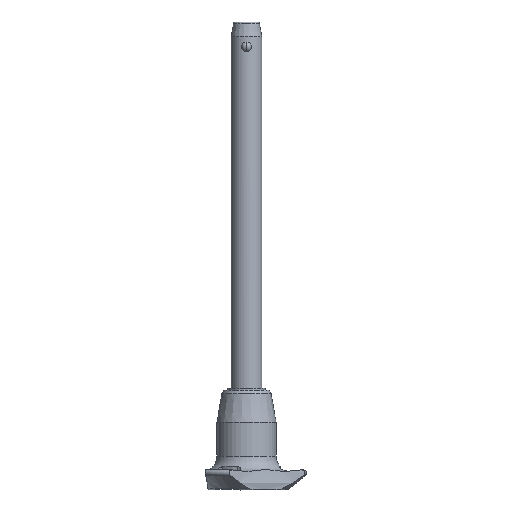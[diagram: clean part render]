
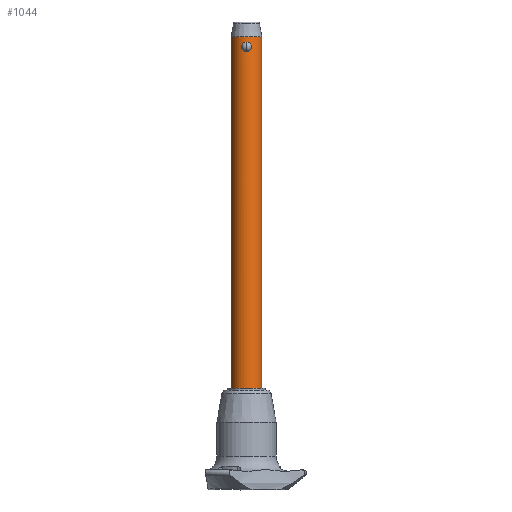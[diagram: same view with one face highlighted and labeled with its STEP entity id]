
A CAD part, front view. The second image highlights one B-rep face of the part: STEP entity #1044.
In plain terms, the highlighted cylindrical face has radius 5 mm (diameter 10 mm), a partial arc.
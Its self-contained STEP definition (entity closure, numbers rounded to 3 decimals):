
#5 = EDGE_CURVE ( 'NONE', #1055, #1495, #1968, .T. ) ;
#49 = DIRECTION ( 'NONE',  ( 0., 0., 1. ) ) ;
#50 = CARTESIAN_POINT ( 'NONE',  ( 5., 0., -110. ) ) ;
#66 = CARTESIAN_POINT ( 'NONE',  ( 0., -5., 0. ) ) ;
#88 = FACE_OUTER_BOUND ( 'NONE', #1989, .T. ) ;
#94 = CARTESIAN_POINT ( 'NONE',  ( -1.383, -4.805, 2.299 ) ) ;
#95 = EDGE_LOOP ( 'NONE', ( #2312, #2437 ) ) ;
#120 = CARTESIAN_POINT ( 'NONE',  ( -1.604, -4.736, 1.724 ) ) ;
#129 = CARTESIAN_POINT ( 'NONE',  ( 0., -5., 0. ) ) ;
#132 = CYLINDRICAL_SURFACE ( 'NONE', #1680, 5. ) ;
#141 = CARTESIAN_POINT ( 'NONE',  ( 1.384, -4.805, 0.735 ) ) ;
#146 = DIRECTION ( 'NONE',  ( 1., 0., 0. ) ) ;
#304 = CARTESIAN_POINT ( 'NONE',  ( 0.7, -4.952, 2.888 ) ) ;
#329 = CARTESIAN_POINT ( 'NONE',  ( 0., -5., 3.033 ) ) ;
#355 = DIRECTION ( 'NONE',  ( 1., 0., 0. ) ) ;
#365 = VERTEX_POINT ( 'NONE', #50 ) ;
#369 = CARTESIAN_POINT ( 'NONE',  ( 0., 0., -110. ) ) ;
#382 = DIRECTION ( 'NONE',  ( 0., 0., -1. ) ) ;
#387 = LINE ( 'NONE', #1247, #1682 ) ;
#502 = CARTESIAN_POINT ( 'NONE',  ( -1.047, -4.89, 2.676 ) ) ;
#508 = CARTESIAN_POINT ( 'NONE',  ( 0.208, -5., 3.033 ) ) ;
#519 = CARTESIAN_POINT ( 'NONE',  ( -1.604, -4.736, 1.416 ) ) ;
#532 = CARTESIAN_POINT ( 'NONE',  ( -1.435, -4.79, 2.209 ) ) ;
#537 = CARTESIAN_POINT ( 'NONE',  ( 1.196, -4.855, 0.493 ) ) ;
#542 = ORIENTED_EDGE ( 'NONE', *, *, #2754, .T. ) ;
#716 = CARTESIAN_POINT ( 'NONE',  ( -0.965, -4.907, 2.738 ) ) ;
#752 = CARTESIAN_POINT ( 'NONE',  ( 1.272, -4.838, 2.47 ) ) ;
#756 = DIRECTION ( 'NONE',  ( 0., 0., 1. ) ) ;
#778 = CARTESIAN_POINT ( 'NONE',  ( 0.966, -4.907, 2.738 ) ) ;
#810 = DIRECTION ( 'NONE',  ( 0., 0., -1. ) ) ;
#813 = ORIENTED_EDGE ( 'NONE', *, *, #1756, .F. ) ;
#844 = CARTESIAN_POINT ( 'NONE',  ( -5., 0., 4.8 ) ) ;
#889 = VERTEX_POINT ( 'NONE', #1803 ) ;
#922 = CARTESIAN_POINT ( 'NONE',  ( 0.699, -4.952, 0.144 ) ) ;
#949 = LINE ( 'NONE', #2675, #1810 ) ;
#964 = CARTESIAN_POINT ( 'NONE',  ( 1.604, -4.736, 1.308 ) ) ;
#980 = CARTESIAN_POINT ( 'NONE',  ( 1.395, -4.802, 2.301 ) ) ;
#1015 = CARTESIAN_POINT ( 'NONE',  ( -0.966, -4.907, 0.296 ) ) ;
#1044 = ADVANCED_FACE ( 'NONE', ( #88, #2680 ), #132, .T. ) ;
#1055 = VERTEX_POINT ( 'NONE', #329 ) ;
#1144 = CARTESIAN_POINT ( 'NONE',  ( 1.265, -4.838, 0.57 ) ) ;
#1157 = CARTESIAN_POINT ( 'NONE',  ( 0., -5., 3.033 ) ) ;
#1166 = ORIENTED_EDGE ( 'NONE', *, *, #1885, .F. ) ;
#1187 = CARTESIAN_POINT ( 'NONE',  ( 1.047, -4.89, 0.356 ) ) ;
#1197 = CARTESIAN_POINT ( 'NONE',  ( -1.551, -4.753, 1.11 ) ) ;
#1215 = CARTESIAN_POINT ( 'NONE',  ( -5., 0., -110. ) ) ;
#1247 = CARTESIAN_POINT ( 'NONE',  ( 5., 0., -110. ) ) ;
#1312 = CARTESIAN_POINT ( 'NONE',  ( 0.412, -4.987, 0.037 ) ) ;
#1362 = CARTESIAN_POINT ( 'NONE',  ( -1.197, -4.855, 2.539 ) ) ;
#1384 = CARTESIAN_POINT ( 'NONE',  ( 1.519, -4.764, 2.021 ) ) ;
#1392 = CARTESIAN_POINT ( 'NONE',  ( -1.272, -4.838, 0.564 ) ) ;
#1403 = CARTESIAN_POINT ( 'NONE',  ( -1.56, -4.751, 1.931 ) ) ;
#1473 = EDGE_CURVE ( 'NONE', #1495, #1055, #1627, .T. ) ;
#1495 = VERTEX_POINT ( 'NONE', #129 ) ;
#1583 = CARTESIAN_POINT ( 'NONE',  ( -1.264, -4.838, 2.464 ) ) ;
#1590 = CARTESIAN_POINT ( 'NONE',  ( 1.434, -4.79, 0.822 ) ) ;
#1606 = CARTESIAN_POINT ( 'NONE',  ( 1.56, -4.751, 1.103 ) ) ;
#1608 = EDGE_CURVE ( 'NONE', #365, #889, #387, .T. ) ;
#1622 = CARTESIAN_POINT ( 'NONE',  ( 0., 0., -110. ) ) ;
#1627 = B_SPLINE_CURVE_WITH_KNOTS ( 'NONE', 3,
 ( #66, #2153, #1312, #922, #1938, #1730, #1187, #537, #1144, #141, #1590, #1606, #964, #2248, #2485, #2221, #1384, #980, #752, #2689, #778, #2470, #304, #1633, #508, #2446 ),
 .UNSPECIFIED., .F., .F.,
 ( 4, 2, 2, 2, 2, 2, 2, 2, 2, 2, 2, 2, 4 ),
 ( 0.005, 0.006, 0.006, 0.006, 0.006, 0.007, 0.007, 0.008, 0.008, 0.009, 0.009, 0.009, 0.01 ),
 .UNSPECIFIED. ) ;
#1633 = CARTESIAN_POINT ( 'NONE',  ( 0.412, -4.987, 2.996 ) ) ;
#1680 = AXIS2_PLACEMENT_3D ( 'NONE', #1622, #756, #146 ) ;
#1682 = VECTOR ( 'NONE', #49, 1000. ) ;
#1684 = CARTESIAN_POINT ( 'NONE',  ( -1.047, -4.89, 0.357 ) ) ;
#1730 = CARTESIAN_POINT ( 'NONE',  ( 0.966, -4.907, 0.296 ) ) ;
#1756 = EDGE_CURVE ( 'NONE', #1866, #2361, #949, .T. ) ;
#1790 = CARTESIAN_POINT ( 'NONE',  ( -1.519, -4.764, 1.013 ) ) ;
#1803 = CARTESIAN_POINT ( 'NONE',  ( 5., 0., 4.8 ) ) ;
#1810 = VECTOR ( 'NONE', #2456, 1000. ) ;
#1817 = AXIS2_PLACEMENT_3D ( 'NONE', #2529, #810, #1886 ) ;
#1866 = VERTEX_POINT ( 'NONE', #1215 ) ;
#1885 = EDGE_CURVE ( 'NONE', #365, #1866, #2089, .T. ) ;
#1886 = DIRECTION ( 'NONE',  ( 1., 0., 0. ) ) ;
#1938 = CARTESIAN_POINT ( 'NONE',  ( 0.792, -4.938, 0.19 ) ) ;
#1968 = B_SPLINE_CURVE_WITH_KNOTS ( 'NONE', 3,
 ( #1157, #2009, #2201, #2454, #2629, #716, #502, #1362, #1583, #94, #532, #1403, #120, #519, #2244, #1197, #1790, #2643, #1392, #1684, #1015, #2537, #2320, #2107, #2293, #2739 ),
 .UNSPECIFIED., .F., .F.,
 ( 4, 2, 2, 2, 2, 2, 2, 2, 2, 2, 2, 2, 4 ),
 ( 0., 0.001, 0.001, 0.001, 0.002, 0.002, 0.002, 0.003, 0.003, 0.004, 0.004, 0.004, 0.005 ),
 .UNSPECIFIED. ) ;
#1989 = EDGE_LOOP ( 'NONE', ( #813, #1166, #2311, #542 ) ) ;
#2009 = CARTESIAN_POINT ( 'NONE',  ( -0.208, -5., 3.033 ) ) ;
#2089 = CIRCLE ( 'NONE', #2299, 5. ) ;
#2107 = CARTESIAN_POINT ( 'NONE',  ( -0.412, -4.987, 0.037 ) ) ;
#2153 = CARTESIAN_POINT ( 'NONE',  ( 0.205, -5., 0. ) ) ;
#2201 = CARTESIAN_POINT ( 'NONE',  ( -0.412, -4.987, 2.997 ) ) ;
#2221 = CARTESIAN_POINT ( 'NONE',  ( 1.551, -4.753, 1.922 ) ) ;
#2244 = CARTESIAN_POINT ( 'NONE',  ( -1.594, -4.739, 1.312 ) ) ;
#2248 = CARTESIAN_POINT ( 'NONE',  ( 1.604, -4.736, 1.619 ) ) ;
#2293 = CARTESIAN_POINT ( 'NONE',  ( -0.205, -5., 0. ) ) ;
#2299 = AXIS2_PLACEMENT_3D ( 'NONE', #369, #382, #355 ) ;
#2311 = ORIENTED_EDGE ( 'NONE', *, *, #1608, .T. ) ;
#2312 = ORIENTED_EDGE ( 'NONE', *, *, #5, .F. ) ;
#2320 = CARTESIAN_POINT ( 'NONE',  ( -0.699, -4.952, 0.145 ) ) ;
#2361 = VERTEX_POINT ( 'NONE', #844 ) ;
#2437 = ORIENTED_EDGE ( 'NONE', *, *, #1473, .F. ) ;
#2446 = CARTESIAN_POINT ( 'NONE',  ( 0., -5., 3.033 ) ) ;
#2448 = CIRCLE ( 'NONE', #1817, 5. ) ;
#2454 = CARTESIAN_POINT ( 'NONE',  ( -0.7, -4.952, 2.888 ) ) ;
#2456 = DIRECTION ( 'NONE',  ( 0., 0., 1. ) ) ;
#2470 = CARTESIAN_POINT ( 'NONE',  ( 0.792, -4.938, 2.844 ) ) ;
#2485 = CARTESIAN_POINT ( 'NONE',  ( 1.594, -4.739, 1.721 ) ) ;
#2529 = CARTESIAN_POINT ( 'NONE',  ( 0., 0., 4.8 ) ) ;
#2537 = CARTESIAN_POINT ( 'NONE',  ( -0.792, -4.938, 0.19 ) ) ;
#2629 = CARTESIAN_POINT ( 'NONE',  ( -0.791, -4.938, 2.844 ) ) ;
#2643 = CARTESIAN_POINT ( 'NONE',  ( -1.394, -4.802, 0.731 ) ) ;
#2675 = CARTESIAN_POINT ( 'NONE',  ( -5., 0., -110. ) ) ;
#2680 = FACE_BOUND ( 'NONE', #95, .T. ) ;
#2689 = CARTESIAN_POINT ( 'NONE',  ( 1.048, -4.889, 2.676 ) ) ;
#2739 = CARTESIAN_POINT ( 'NONE',  ( 0., -5., 0. ) ) ;
#2754 = EDGE_CURVE ( 'NONE', #889, #2361, #2448, .T. ) ;
